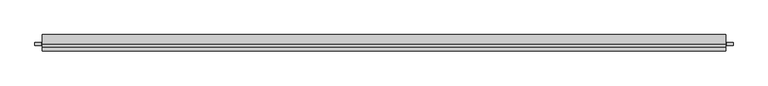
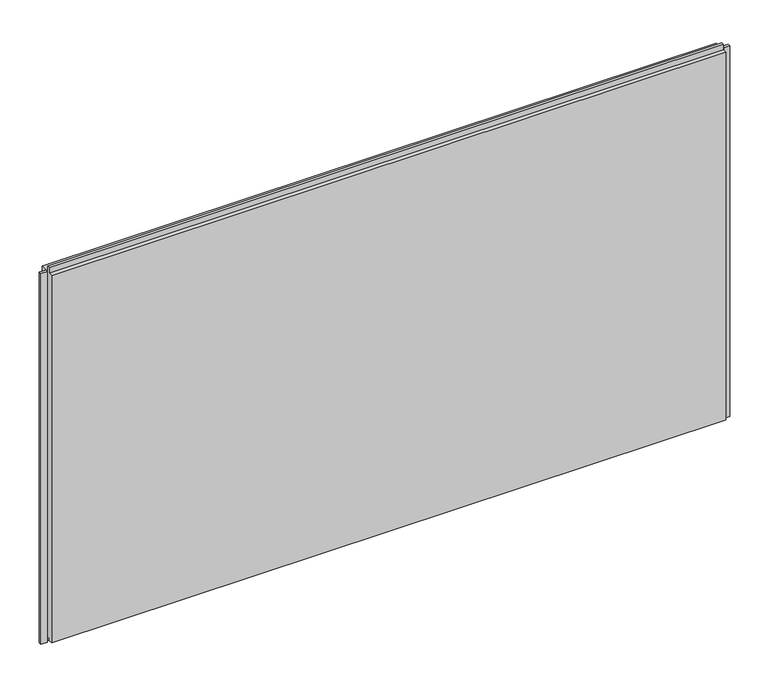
"""IFC4 building model written with IfcOpenShell, lengths in millimetres: plate geometry, Trimo_Qbiss Screen_Normal Panel-HORIZONTAL : HR - FB."""

from ifc_helpers import new_model, si_unit, frame, origin, place, context, project, spatial, polyline, outline, extrude, source, transform, mapped, element, save


def plate_8f96e1f7(model_context):
    return source(origin(), model_context, "Body", "SweptSolid", [
        extrude(outline(polyline([(-1034.25, 76.5978162), (-1034.25, 67.8978162), (-1053.25, 67.8978162), (-1053.25, 76.5978162), (-1034.25, 76.5978162)])), frame((0.0, 0.0, -1.0), z_axis=(0.0, 0.0, 1.0), x_axis=(1.0, 0.0, 0.0)), (0.0, 0.0, 1.0), 1200.0),
        extrude(outline(polyline([(1034.25, 67.8978162), (1034.25, 76.5978162), (1053.25, 76.5978162), (1053.25, 67.8978162), (1034.25, 67.8978162)])), frame((0.0, 0.0, -1.0), z_axis=(0.0, 0.0, 1.0), x_axis=(1.0, 0.0, 0.0)), (0.0, 0.0, 1.0), 1200.0),
        extrude(outline(polyline([(71.0, 1196.0), (100.0, 1196.0), (100.0, 0.0), (72.0, 0.0), (72.0, 15.5), (62.0, 15.5), (62.0, 7.0), (50.0, 7.0), (50.0, 1196.0), (63.0, 1196.0), (63.0, 1214.5), (71.0, 1214.5), (71.0, 1196.0)])), frame((-1031.25, 0.0, 0.0), z_axis=(1.0, 0.0, 0.0), x_axis=(0.0, 1.0, 0.0)), (0.0, 0.0, 1.0), 2062.5),
    ])


if __name__ == "__main__":
    model = new_model("IFC4")
    model_context = context("Model", 3, world=origin())
    ifc_project = project(units=[si_unit("LENGTHUNIT", "METRE", prefix="MILLI")], contexts=[model_context])
    site = spatial("IfcSite", under=ifc_project)
    building = spatial("IfcBuilding", under=site)
    placement = place(None, origin())
    plate_shape = plate_8f96e1f7(model_context)
    element("IfcPlate", 1, ObjectType="Trimo_Qbiss Screen_Normal Panel-HORIZONTAL : HR - FB", at=placement, inside=building, context=model_context, shape_type="MappedRepresentation", body=[
        mapped(plate_shape, transform((0.0, 0.0, 0.0), x_axis=(1.0, 0.0, 0.0), y_axis=(0.0, 1.0, 0.0), z_axis=(0.0, 0.0, 1.0))),
    ])
    save(model, "model.ifc")
